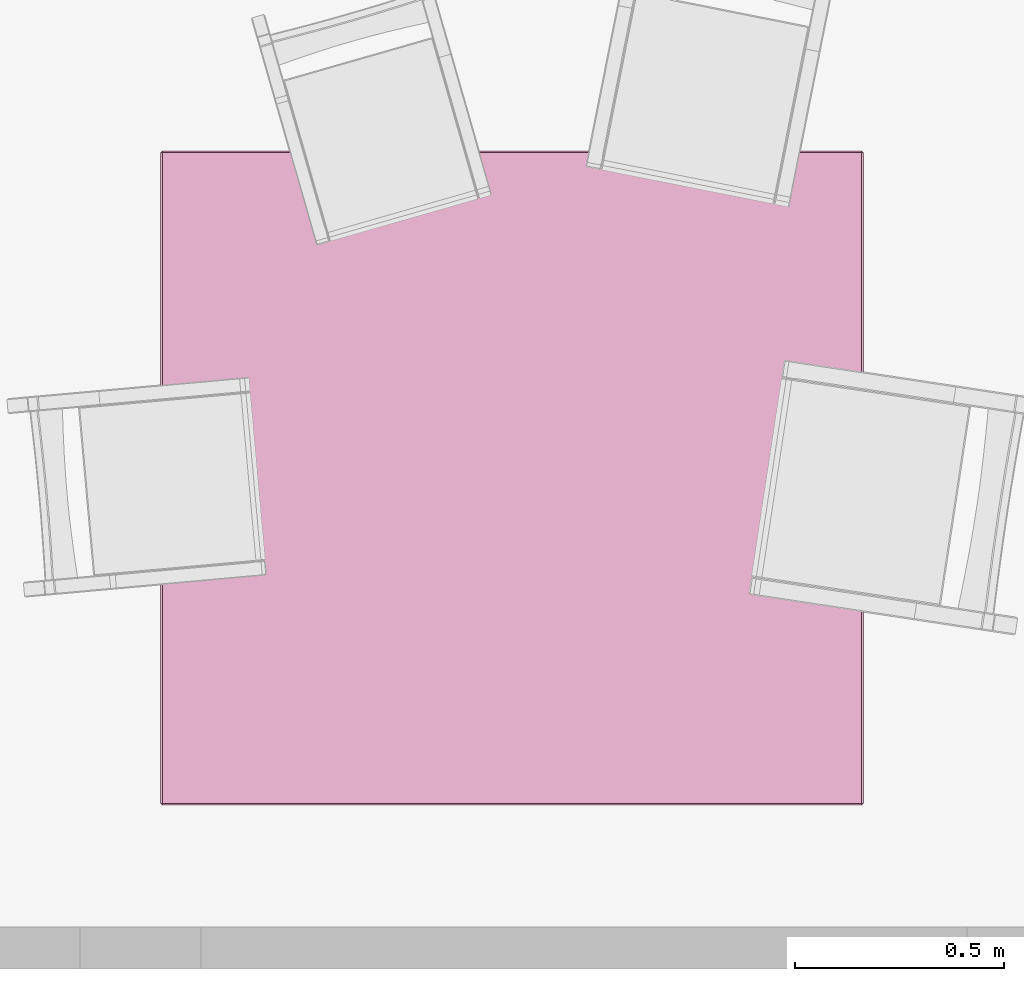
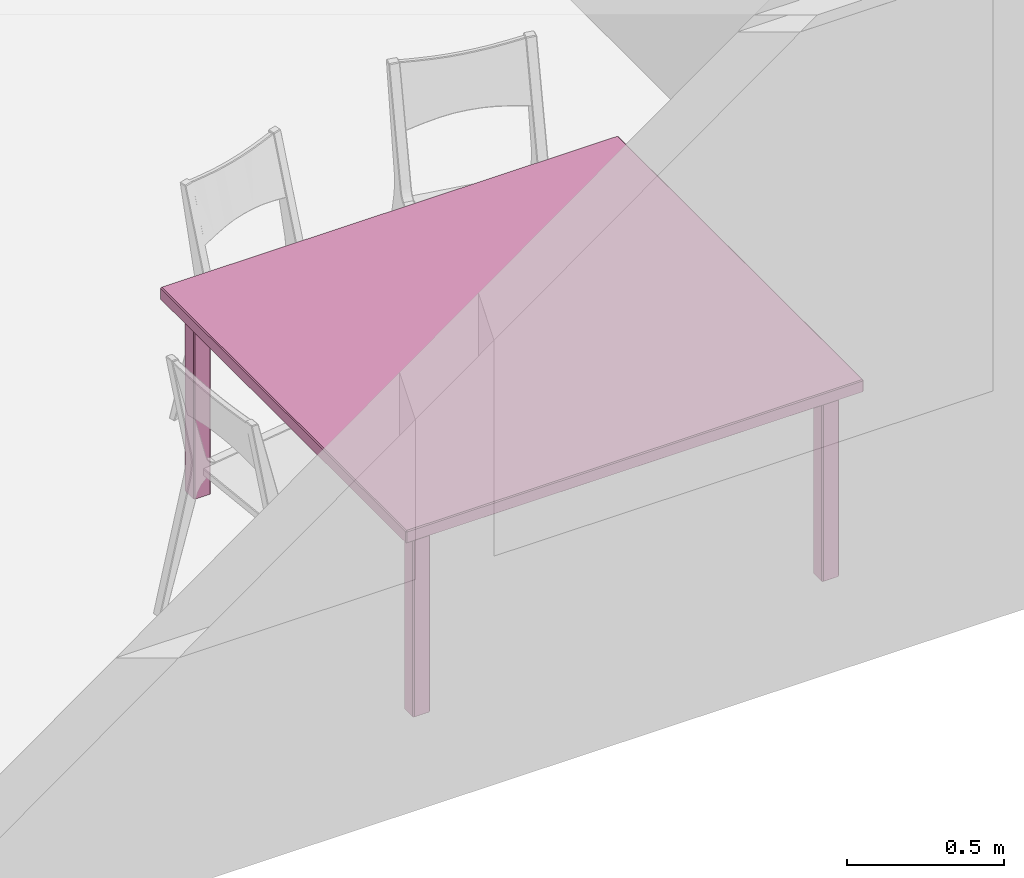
# One storey, part 19 of 26: 1 furniture element.
"""IFC4 building model written with IfcOpenShell, lengths in metres."""

from ifc_helpers import new_model, si_unit, direction, frame, origin_with_axes, place, context, project, spatial, polygons, type_object, element, save


model = new_model("IFC4")

# Units and contexts
model_context = context("Model", 3, precision=1e-05, world=origin_with_axes(), true_north=direction((0.996, -0.093, 0.0)))
ifc_project = project(units=[si_unit("LENGTHUNIT", "METRE"), si_unit("AREAUNIT", "SQUARE_METRE")], contexts=[model_context])

# Site, building, storey, space
site_placement = place(None, origin_with_axes())
site = spatial("IfcSite", under=ifc_project, at=site_placement, Name="Site", CompositionType="ELEMENT")
building_placement = place(site_placement, origin_with_axes())
building = spatial("IfcBuilding", under=site, at=building_placement, Name="Building", CompositionType="ELEMENT")
storey_placement = place(building_placement, frame((0.0, 0.0, 0.0500001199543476), z_axis=(0.0, 0.0, 1.0), x_axis=(1.0, 0.0, 0.0)))
storey = spatial("IfcBuildingStorey", under=building, at=storey_placement, Name="Story 0", CompositionType="ELEMENT", Elevation=0.0500000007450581)
space_placement = place(storey_placement, frame((24.3933241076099, 0.811289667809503, 0.0), z_axis=(0.0, 0.0, 1.0), x_axis=(1.0, 0.0, 0.0)))
space = spatial("IfcSpace", under=storey, at=space_placement, Name="008", CompositionType="ELEMENT")

# Furniture
furniture_type = type_object("IfcFurnitureType", Name="fcb3899c-d8d7-4efd-a397-636705d5c146", AssemblyPlace="NOTDEFINED", PredefinedType="USERDEFINED")
furniture_placement = place(space_placement, frame((3.68496301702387, -4.40319359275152, 0.389867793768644), z_axis=(0.0, 0.0, 0.99999994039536), x_axis=(0.0, 0.99999994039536, 0.0)))
element("IfcFurniture", 1, at=furniture_placement, inside=space, type_object=furniture_type, Name="Table", ObjectType="Table", PredefinedType="USERDEFINED", context=model_context, shape_type="Tessellation", body=[
    polygons([(0.7789, 0.8409, 0.3446), (-0.7789, 0.8409, 0.3446), (0.7789, 0.8409, 0.3864), (-0.7789, 0.8409, 0.3864), (0.7789, 0.8409, 0.3864), (-0.7789, 0.8409, 0.3446), (0.6677, -0.7786, 0.3534), (0.6677, -0.7235, 0.3534), (0.6677, -0.7786, -0.3864), (0.6677, -0.7235, -0.3864), (0.6677, -0.7786, -0.3864), (0.6677, -0.7235, 0.3534), (0.723, -0.7828, 0.3534), (0.6716, -0.7828, 0.3534), (0.723, -0.7828, -0.3864), (0.6716, -0.7828, -0.3864), (0.723, -0.7828, -0.3864), (0.6716, -0.7828, 0.3534), (0.7269, -0.7235, 0.3534), (0.7269, -0.7786, 0.3534), (0.7269, -0.7235, -0.3864), (0.7269, -0.7786, -0.3864), (0.7269, -0.7235, -0.3864), (0.7269, -0.7786, 0.3534), (0.6716, -0.7193, 0.3534), (0.723, -0.7193, 0.3534), (0.6716, -0.7193, -0.3864), (0.723, -0.7193, -0.3864), (0.6716, -0.7193, -0.3864), (0.723, -0.7193, 0.3534), (0.6677, 0.7786, 0.3534), (0.6677, 0.7786, -0.3864), (0.6677, 0.7235, 0.3534), (0.6677, 0.7235, -0.3864), (0.6677, 0.7235, 0.3534), (0.6677, 0.7786, -0.3864), (0.723, 0.7828, 0.3534), (0.723, 0.7828, -0.3864), (0.6716, 0.7828, 0.3534), (0.6716, 0.7828, -0.3864), (0.6716, 0.7828, 0.3534), (0.723, 0.7828, -0.3864), (0.7269, 0.7235, 0.3534), (0.7269, 0.7235, -0.3864), (0.7269, 0.7786, 0.3534), (0.7269, 0.7786, -0.3864), (0.7269, 0.7786, 0.3534), (0.7269, 0.7235, -0.3864), (0.6716, 0.7193, 0.3534), (0.6716, 0.7193, -0.3864), (0.723, 0.7193, 0.3534), (0.723, 0.7193, -0.3864), (0.723, 0.7193, 0.3534), (0.6716, 0.7193, -0.3864), (0.7829, 0.8367, 0.3446), (0.7829, 0.8367, 0.3864), (0.7829, -0.8367, 0.3446), (0.7829, -0.8367, 0.3864), (0.7829, -0.8367, 0.3446), (0.7829, 0.8367, 0.3864), (-0.7828, 0.8367, 0.3864), (-0.7828, 0.8367, 0.3446), (-0.7828, -0.8367, 0.3864), (-0.7828, -0.8367, 0.3446), (-0.7828, -0.8367, 0.3864), (-0.7828, 0.8367, 0.3446), (-0.6677, -0.7786, 0.3534), (-0.6677, -0.7786, -0.3864), (-0.6677, -0.7235, 0.3534), (-0.6677, -0.7235, -0.3864), (-0.6677, -0.7235, 0.3534), (-0.6677, -0.7786, -0.3864), (-0.723, -0.7828, 0.3534), (-0.723, -0.7828, -0.3864), (-0.6716, -0.7828, 0.3534), (-0.6716, -0.7828, -0.3864), (-0.6716, -0.7828, 0.3534), (-0.723, -0.7828, -0.3864), (-0.7269, -0.7235, 0.3534), (-0.7269, -0.7235, -0.3864), (-0.7269, -0.7786, 0.3534), (-0.7269, -0.7786, -0.3864), (-0.7269, -0.7786, 0.3534), (-0.7269, -0.7235, -0.3864), (-0.6716, -0.7193, 0.3534), (-0.6716, -0.7193, -0.3864), (-0.723, -0.7193, 0.3534), (-0.723, -0.7193, -0.3864), (-0.723, -0.7193, 0.3534), (-0.6716, -0.7193, -0.3864), (-0.6677, 0.7786, 0.3534), (-0.6677, 0.7235, 0.3534), (-0.6677, 0.7786, -0.3864), (-0.6677, 0.7235, -0.3864), (-0.6677, 0.7786, -0.3864), (-0.6677, 0.7235, 0.3534), (-0.723, 0.7828, 0.3534), (-0.6716, 0.7828, 0.3534), (-0.723, 0.7828, -0.3864), (-0.6716, 0.7828, -0.3864), (-0.723, 0.7828, -0.3864), (-0.6716, 0.7828, 0.3534), (-0.7269, 0.7235, 0.3534), (-0.7269, 0.7786, 0.3534), (-0.7269, 0.7235, -0.3864), (-0.7269, 0.7786, -0.3864), (-0.7269, 0.7235, -0.3864), (-0.7269, 0.7786, 0.3534), (-0.6716, 0.7193, 0.3534), (-0.723, 0.7193, 0.3534), (-0.6716, 0.7193, -0.3864), (-0.723, 0.7193, -0.3864), (-0.6716, 0.7193, -0.3864), (-0.723, 0.7193, 0.3534), (-0.7789, 0.8367, 0.3899), (-0.7789, -0.8367, 0.3899), (0.7789, 0.8367, 0.3899), (0.7789, -0.8367, 0.3899), (0.7789, 0.8367, 0.3899), (-0.7789, -0.8367, 0.3899), (0.7789, -0.8409, 0.3446), (0.7789, -0.8409, 0.3864), (-0.7789, -0.8409, 0.3446), (-0.7789, -0.8409, 0.3864), (-0.7789, -0.8409, 0.3446), (0.7789, -0.8409, 0.3864), (0.7789, -0.8367, 0.3412), (-0.7789, -0.8367, 0.3412), (0.7789, 0.8367, 0.3412), (-0.7789, 0.8367, 0.3412), (0.7789, 0.8367, 0.3412), (-0.7789, -0.8367, 0.3412), (0.723, -0.7786, 0.3568), (0.723, -0.7235, 0.3568), (0.6716, -0.7786, 0.3568), (0.6716, -0.7235, 0.3568), (0.6716, -0.7786, 0.3568), (0.723, -0.7235, 0.3568), (0.723, -0.7235, -0.3899), (0.723, -0.7786, -0.3899), (0.6716, -0.7235, -0.3899), (0.6716, -0.7786, -0.3899), (0.6716, -0.7235, -0.3899), (0.723, -0.7786, -0.3899), (0.723, 0.7786, -0.3899), (0.723, 0.7235, -0.3899), (0.6716, 0.7786, -0.3899), (0.6716, 0.7235, -0.3899), (0.6716, 0.7786, -0.3899), (0.723, 0.7235, -0.3899), (0.723, 0.7235, 0.3568), (0.723, 0.7786, 0.3568), (0.6716, 0.7235, 0.3568), (0.6716, 0.7786, 0.3568), (0.6716, 0.7235, 0.3568), (0.723, 0.7786, 0.3568), (-0.723, -0.7786, -0.3899), (-0.723, -0.7235, -0.3899), (-0.6716, -0.7786, -0.3899), (-0.6716, -0.7235, -0.3899), (-0.6716, -0.7786, -0.3899), (-0.723, -0.7235, -0.3899), (-0.723, -0.7235, 0.3568), (-0.723, -0.7786, 0.3568), (-0.6716, -0.7235, 0.3568), (-0.6716, -0.7786, 0.3568), (-0.6716, -0.7235, 0.3568), (-0.723, -0.7786, 0.3568), (-0.723, 0.7786, 0.3568), (-0.723, 0.7235, 0.3568), (-0.6716, 0.7786, 0.3568), (-0.6716, 0.7235, 0.3568), (-0.6716, 0.7786, 0.3568), (-0.723, 0.7235, 0.3568), (-0.723, 0.7235, -0.3899), (-0.723, 0.7786, -0.3899), (-0.6716, 0.7235, -0.3899), (-0.6716, 0.7786, -0.3899), (-0.6716, 0.7235, -0.3899), (-0.723, 0.7786, -0.3899), (-0.7789, 0.8367, 0.3899), (-0.7789, 0.8409, 0.3864), (-0.7828, 0.8367, 0.3864), (0.6716, -0.7235, -0.3899), (0.6677, -0.7235, -0.3864), (0.6716, -0.7193, -0.3864), (0.6716, -0.7786, -0.3899), (0.6716, -0.7828, -0.3864), (0.6677, -0.7786, -0.3864), (0.723, -0.7786, -0.3899), (0.7269, -0.7786, -0.3864), (0.723, -0.7828, -0.3864), (0.723, -0.7235, -0.3899), (0.723, -0.7193, -0.3864), (0.7269, -0.7235, -0.3864), (0.6716, -0.7235, 0.3568), (0.6716, -0.7193, 0.3534), (0.6677, -0.7235, 0.3534), (0.6716, 0.7193, -0.3864), (0.6677, 0.7235, -0.3864), (0.6716, 0.7235, -0.3899), (0.6716, 0.7786, 0.3568), (0.6716, 0.7828, 0.3534), (0.6677, 0.7786, 0.3534), (0.723, 0.7786, 0.3568), (0.7269, 0.7786, 0.3534), (0.723, 0.7828, 0.3534), (0.723, 0.7235, 0.3568), (0.723, 0.7193, 0.3534), (0.7269, 0.7235, 0.3534), (0.7789, -0.8409, 0.3864), (0.7829, -0.8367, 0.3864), (0.7789, -0.8367, 0.3899), (0.7789, 0.8367, 0.3899), (0.7829, 0.8367, 0.3864), (0.7789, 0.8409, 0.3864), (-0.7789, -0.8409, 0.3446), (-0.7828, -0.8367, 0.3446), (-0.7789, -0.8367, 0.3412), (-0.7789, 0.8367, 0.3412), (-0.7828, 0.8367, 0.3446), (-0.7789, 0.8409, 0.3446), (-0.6716, -0.7193, -0.3864), (-0.6677, -0.7235, -0.3864), (-0.6716, -0.7235, -0.3899), (-0.6716, -0.7786, 0.3568), (-0.6716, -0.7828, 0.3534), (-0.6677, -0.7786, 0.3534), (-0.723, -0.7786, 0.3568), (-0.7269, -0.7786, 0.3534), (-0.723, -0.7828, 0.3534), (-0.723, -0.7235, 0.3568), (-0.723, -0.7193, 0.3534), (-0.7269, -0.7235, 0.3534), (-0.6716, 0.7235, -0.3899), (-0.6677, 0.7235, -0.3864), (-0.6716, 0.7193, -0.3864), (-0.6716, 0.7786, -0.3899), (-0.6716, 0.7828, -0.3864), (-0.6677, 0.7786, -0.3864), (-0.723, 0.7786, -0.3899), (-0.7269, 0.7786, -0.3864), (-0.723, 0.7828, -0.3864), (-0.723, 0.7235, -0.3899), (-0.723, 0.7193, -0.3864), (-0.7269, 0.7235, -0.3864), (-0.6716, 0.7235, 0.3568), (-0.6716, 0.7193, 0.3534), (-0.6677, 0.7235, 0.3534), (-0.7789, -0.8409, 0.3864), (-0.7789, -0.8367, 0.3899), (-0.7828, -0.8367, 0.3864), (0.7789, -0.8409, 0.3446), (0.7789, -0.8367, 0.3412), (0.7829, -0.8367, 0.3446), (0.7829, 0.8367, 0.3446), (0.7789, 0.8367, 0.3412), (0.7789, 0.8409, 0.3446), (0.723, -0.7193, 0.3534), (0.723, -0.7235, 0.3568), (0.7269, -0.7235, 0.3534), (0.7269, -0.7786, 0.3534), (0.723, -0.7786, 0.3568), (0.723, -0.7828, 0.3534), (0.6716, -0.7828, 0.3534), (0.6716, -0.7786, 0.3568), (0.6677, -0.7786, 0.3534), (0.723, 0.7193, -0.3864), (0.723, 0.7235, -0.3899), (0.7269, 0.7235, -0.3864), (0.7269, 0.7786, -0.3864), (0.723, 0.7786, -0.3899), (0.723, 0.7828, -0.3864), (0.6716, 0.7828, -0.3864), (0.6716, 0.7786, -0.3899), (0.6677, 0.7786, -0.3864), (0.6716, 0.7193, 0.3534), (0.6716, 0.7235, 0.3568), (0.6677, 0.7235, 0.3534), (-0.723, -0.7193, -0.3864), (-0.723, -0.7235, -0.3899), (-0.7269, -0.7235, -0.3864), (-0.7269, -0.7786, -0.3864), (-0.723, -0.7786, -0.3899), (-0.723, -0.7828, -0.3864), (-0.6716, -0.7828, -0.3864), (-0.6716, -0.7786, -0.3899), (-0.6677, -0.7786, -0.3864), (-0.6716, -0.7193, 0.3534), (-0.6716, -0.7235, 0.3568), (-0.6677, -0.7235, 0.3534), (-0.723, 0.7193, 0.3534), (-0.723, 0.7235, 0.3568), (-0.7269, 0.7235, 0.3534), (-0.7269, 0.7786, 0.3534), (-0.723, 0.7786, 0.3568), (-0.723, 0.7828, 0.3534), (-0.6716, 0.7828, 0.3534), (-0.6716, 0.7786, 0.3568), (-0.6677, 0.7786, 0.3534), (-0.7789, 0.8409, 0.3864), (-0.7789, 0.8409, 0.3446), (-0.7828, 0.8367, 0.3864), (-0.7828, 0.8367, 0.3446), (-0.7828, 0.8367, 0.3864), (-0.7789, 0.8409, 0.3446), (-0.7789, 0.8409, 0.3446), (0.7789, 0.8409, 0.3446), (-0.7789, 0.8367, 0.3412), (0.7789, 0.8367, 0.3412), (-0.7789, 0.8367, 0.3412), (0.7789, 0.8409, 0.3446), (0.7789, 0.8409, 0.3446), (0.7789, 0.8409, 0.3864), (0.7829, 0.8367, 0.3446), (0.7829, 0.8367, 0.3864), (0.7829, 0.8367, 0.3446), (0.7789, 0.8409, 0.3864), (0.7789, 0.8409, 0.3864), (-0.7789, 0.8409, 0.3864), (0.7789, 0.8367, 0.3899), (-0.7789, 0.8367, 0.3899), (0.7789, 0.8367, 0.3899), (-0.7789, 0.8409, 0.3864), (0.6677, -0.7235, -0.3864), (0.6677, -0.7235, 0.3534), (0.6716, -0.7193, -0.3864), (0.6716, -0.7193, 0.3534), (0.6716, -0.7193, -0.3864), (0.6677, -0.7235, 0.3534), (0.6677, -0.7235, 0.3534), (0.6677, -0.7786, 0.3534), (0.6716, -0.7235, 0.3568), (0.6716, -0.7786, 0.3568), (0.6716, -0.7235, 0.3568), (0.6677, -0.7786, 0.3534), (0.6677, -0.7786, 0.3534), (0.6677, -0.7786, -0.3864), (0.6716, -0.7828, 0.3534), (0.6716, -0.7828, -0.3864), (0.6716, -0.7828, 0.3534), (0.6677, -0.7786, -0.3864), (0.6677, -0.7786, -0.3864), (0.6677, -0.7235, -0.3864), (0.6716, -0.7786, -0.3899), (0.6716, -0.7235, -0.3899), (0.6716, -0.7786, -0.3899), (0.6677, -0.7235, -0.3864), (0.6716, -0.7828, 0.3534), (0.723, -0.7828, 0.3534), (0.6716, -0.7786, 0.3568), (0.723, -0.7786, 0.3568), (0.6716, -0.7786, 0.3568), (0.723, -0.7828, 0.3534), (0.723, -0.7828, 0.3534), (0.723, -0.7828, -0.3864), (0.7269, -0.7786, 0.3534), (0.7269, -0.7786, -0.3864), (0.7269, -0.7786, 0.3534), (0.723, -0.7828, -0.3864), (0.723, -0.7828, -0.3864), (0.6716, -0.7828, -0.3864), (0.723, -0.7786, -0.3899), (0.6716, -0.7786, -0.3899), (0.723, -0.7786, -0.3899), (0.6716, -0.7828, -0.3864), (0.7269, -0.7786, 0.3534), (0.7269, -0.7235, 0.3534), (0.723, -0.7786, 0.3568), (0.723, -0.7235, 0.3568), (0.723, -0.7786, 0.3568), (0.7269, -0.7235, 0.3534), (0.7269, -0.7235, 0.3534), (0.7269, -0.7235, -0.3864), (0.723, -0.7193, 0.3534), (0.723, -0.7193, -0.3864), (0.723, -0.7193, 0.3534), (0.7269, -0.7235, -0.3864), (0.7269, -0.7235, -0.3864), (0.7269, -0.7786, -0.3864), (0.723, -0.7235, -0.3899), (0.723, -0.7786, -0.3899), (0.723, -0.7235, -0.3899), (0.7269, -0.7786, -0.3864), (0.723, -0.7193, 0.3534), (0.6716, -0.7193, 0.3534), (0.723, -0.7235, 0.3568), (0.6716, -0.7235, 0.3568), (0.723, -0.7235, 0.3568), (0.6716, -0.7193, 0.3534), (0.6716, -0.7193, -0.3864), (0.723, -0.7193, -0.3864), (0.6716, -0.7235, -0.3899), (0.723, -0.7235, -0.3899), (0.6716, -0.7235, -0.3899), (0.723, -0.7193, -0.3864), (0.6677, 0.7235, -0.3864), (0.6677, 0.7786, -0.3864), (0.6716, 0.7235, -0.3899), (0.6716, 0.7786, -0.3899), (0.6716, 0.7235, -0.3899), (0.6677, 0.7786, -0.3864), (0.6677, 0.7786, -0.3864), (0.6677, 0.7786, 0.3534), (0.6716, 0.7828, -0.3864), (0.6716, 0.7828, 0.3534), (0.6716, 0.7828, -0.3864), (0.6677, 0.7786, 0.3534), (0.6677, 0.7786, 0.3534), (0.6677, 0.7235, 0.3534), (0.6716, 0.7786, 0.3568), (0.6716, 0.7235, 0.3568), (0.6716, 0.7786, 0.3568), (0.6677, 0.7235, 0.3534), (0.6677, 0.7235, 0.3534), (0.6677, 0.7235, -0.3864), (0.6716, 0.7193, 0.3534), (0.6716, 0.7193, -0.3864), (0.6716, 0.7193, 0.3534), (0.6677, 0.7235, -0.3864), (0.6716, 0.7828, -0.3864), (0.723, 0.7828, -0.3864), (0.6716, 0.7786, -0.3899), (0.723, 0.7786, -0.3899), (0.6716, 0.7786, -0.3899), (0.723, 0.7828, -0.3864), (0.723, 0.7828, -0.3864), (0.723, 0.7828, 0.3534), (0.7269, 0.7786, -0.3864), (0.7269, 0.7786, 0.3534), (0.7269, 0.7786, -0.3864), (0.723, 0.7828, 0.3534), (0.723, 0.7828, 0.3534), (0.6716, 0.7828, 0.3534), (0.723, 0.7786, 0.3568), (0.6716, 0.7786, 0.3568), (0.723, 0.7786, 0.3568), (0.6716, 0.7828, 0.3534), (0.7269, 0.7786, -0.3864), (0.7269, 0.7235, -0.3864), (0.723, 0.7786, -0.3899), (0.723, 0.7235, -0.3899), (0.723, 0.7786, -0.3899), (0.7269, 0.7235, -0.3864), (0.7269, 0.7235, -0.3864), (0.7269, 0.7235, 0.3534), (0.723, 0.7193, -0.3864), (0.723, 0.7193, 0.3534), (0.723, 0.7193, -0.3864), (0.7269, 0.7235, 0.3534), (0.7269, 0.7235, 0.3534), (0.7269, 0.7786, 0.3534), (0.723, 0.7235, 0.3568), (0.723, 0.7786, 0.3568), (0.723, 0.7235, 0.3568), (0.7269, 0.7786, 0.3534), (0.723, 0.7193, -0.3864), (0.6716, 0.7193, -0.3864), (0.723, 0.7235, -0.3899), (0.6716, 0.7235, -0.3899), (0.723, 0.7235, -0.3899), (0.6716, 0.7193, -0.3864), (0.6716, 0.7193, 0.3534), (0.723, 0.7193, 0.3534), (0.6716, 0.7235, 0.3568), (0.723, 0.7235, 0.3568), (0.6716, 0.7235, 0.3568), (0.723, 0.7193, 0.3534), (0.7829, -0.8367, 0.3864), (0.7829, 0.8367, 0.3864), (0.7789, -0.8367, 0.3899), (0.7789, 0.8367, 0.3899), (0.7789, -0.8367, 0.3899), (0.7829, 0.8367, 0.3864), (0.7829, 0.8367, 0.3446), (0.7829, -0.8367, 0.3446), (0.7789, 0.8367, 0.3412), (0.7789, -0.8367, 0.3412), (0.7789, 0.8367, 0.3412), (0.7829, -0.8367, 0.3446), (0.7829, -0.8367, 0.3446), (0.7829, -0.8367, 0.3864), (0.7789, -0.8409, 0.3446), (0.7789, -0.8409, 0.3864), (0.7789, -0.8409, 0.3446), (0.7829, -0.8367, 0.3864), (-0.7828, -0.8367, 0.3446), (-0.7828, 0.8367, 0.3446), (-0.7789, -0.8367, 0.3412), (-0.7789, 0.8367, 0.3412), (-0.7789, -0.8367, 0.3412), (-0.7828, 0.8367, 0.3446), (-0.7828, 0.8367, 0.3864), (-0.7828, -0.8367, 0.3864), (-0.7789, 0.8367, 0.3899), (-0.7789, -0.8367, 0.3899), (-0.7789, 0.8367, 0.3899), (-0.7828, -0.8367, 0.3864), (-0.7828, -0.8367, 0.3864), (-0.7828, -0.8367, 0.3446), (-0.7789, -0.8409, 0.3864), (-0.7789, -0.8409, 0.3446), (-0.7789, -0.8409, 0.3864), (-0.7828, -0.8367, 0.3446), (-0.6677, -0.7235, -0.3864), (-0.6677, -0.7786, -0.3864), (-0.6716, -0.7235, -0.3899), (-0.6716, -0.7786, -0.3899), (-0.6716, -0.7235, -0.3899), (-0.6677, -0.7786, -0.3864), (-0.6677, -0.7786, -0.3864), (-0.6677, -0.7786, 0.3534), (-0.6716, -0.7828, -0.3864), (-0.6716, -0.7828, 0.3534), (-0.6716, -0.7828, -0.3864), (-0.6677, -0.7786, 0.3534), (-0.6677, -0.7786, 0.3534), (-0.6677, -0.7235, 0.3534), (-0.6716, -0.7786, 0.3568), (-0.6716, -0.7235, 0.3568), (-0.6716, -0.7786, 0.3568), (-0.6677, -0.7235, 0.3534), (-0.6677, -0.7235, 0.3534), (-0.6677, -0.7235, -0.3864), (-0.6716, -0.7193, 0.3534), (-0.6716, -0.7193, -0.3864), (-0.6716, -0.7193, 0.3534), (-0.6677, -0.7235, -0.3864), (-0.6716, -0.7828, -0.3864), (-0.723, -0.7828, -0.3864), (-0.6716, -0.7786, -0.3899), (-0.723, -0.7786, -0.3899), (-0.6716, -0.7786, -0.3899), (-0.723, -0.7828, -0.3864), (-0.723, -0.7828, -0.3864), (-0.723, -0.7828, 0.3534), (-0.7269, -0.7786, -0.3864), (-0.7269, -0.7786, 0.3534), (-0.7269, -0.7786, -0.3864), (-0.723, -0.7828, 0.3534), (-0.723, -0.7828, 0.3534), (-0.6716, -0.7828, 0.3534), (-0.723, -0.7786, 0.3568), (-0.6716, -0.7786, 0.3568), (-0.723, -0.7786, 0.3568), (-0.6716, -0.7828, 0.3534), (-0.7269, -0.7786, -0.3864), (-0.7269, -0.7235, -0.3864), (-0.723, -0.7786, -0.3899), (-0.723, -0.7235, -0.3899), (-0.723, -0.7786, -0.3899), (-0.7269, -0.7235, -0.3864), (-0.7269, -0.7235, -0.3864), (-0.7269, -0.7235, 0.3534), (-0.723, -0.7193, -0.3864), (-0.723, -0.7193, 0.3534), (-0.723, -0.7193, -0.3864), (-0.7269, -0.7235, 0.3534), (-0.7269, -0.7235, 0.3534), (-0.7269, -0.7786, 0.3534), (-0.723, -0.7235, 0.3568), (-0.723, -0.7786, 0.3568), (-0.723, -0.7235, 0.3568), (-0.7269, -0.7786, 0.3534), (-0.723, -0.7193, -0.3864), (-0.6716, -0.7193, -0.3864), (-0.723, -0.7235, -0.3899), (-0.6716, -0.7235, -0.3899), (-0.723, -0.7235, -0.3899), (-0.6716, -0.7193, -0.3864), (-0.6716, -0.7193, 0.3534), (-0.723, -0.7193, 0.3534), (-0.6716, -0.7235, 0.3568), (-0.723, -0.7235, 0.3568), (-0.6716, -0.7235, 0.3568), (-0.723, -0.7193, 0.3534), (-0.6677, 0.7235, -0.3864), (-0.6677, 0.7235, 0.3534), (-0.6716, 0.7193, -0.3864), (-0.6716, 0.7193, 0.3534), (-0.6716, 0.7193, -0.3864), (-0.6677, 0.7235, 0.3534), (-0.6677, 0.7235, 0.3534), (-0.6677, 0.7786, 0.3534), (-0.6716, 0.7235, 0.3568), (-0.6716, 0.7786, 0.3568), (-0.6716, 0.7235, 0.3568), (-0.6677, 0.7786, 0.3534), (-0.6677, 0.7786, 0.3534), (-0.6677, 0.7786, -0.3864), (-0.6716, 0.7828, 0.3534), (-0.6716, 0.7828, -0.3864), (-0.6716, 0.7828, 0.3534), (-0.6677, 0.7786, -0.3864), (-0.6677, 0.7786, -0.3864), (-0.6677, 0.7235, -0.3864), (-0.6716, 0.7786, -0.3899), (-0.6716, 0.7235, -0.3899), (-0.6716, 0.7786, -0.3899), (-0.6677, 0.7235, -0.3864), (-0.6716, 0.7828, 0.3534), (-0.723, 0.7828, 0.3534), (-0.6716, 0.7786, 0.3568), (-0.723, 0.7786, 0.3568), (-0.6716, 0.7786, 0.3568), (-0.723, 0.7828, 0.3534), (-0.723, 0.7828, 0.3534), (-0.723, 0.7828, -0.3864), (-0.7269, 0.7786, 0.3534), (-0.7269, 0.7786, -0.3864), (-0.7269, 0.7786, 0.3534), (-0.723, 0.7828, -0.3864), (-0.723, 0.7828, -0.3864), (-0.6716, 0.7828, -0.3864), (-0.723, 0.7786, -0.3899), (-0.6716, 0.7786, -0.3899), (-0.723, 0.7786, -0.3899), (-0.6716, 0.7828, -0.3864), (-0.7269, 0.7786, 0.3534), (-0.7269, 0.7235, 0.3534), (-0.723, 0.7786, 0.3568), (-0.723, 0.7235, 0.3568), (-0.723, 0.7786, 0.3568), (-0.7269, 0.7235, 0.3534), (-0.7269, 0.7235, 0.3534), (-0.7269, 0.7235, -0.3864), (-0.723, 0.7193, 0.3534), (-0.723, 0.7193, -0.3864), (-0.723, 0.7193, 0.3534), (-0.7269, 0.7235, -0.3864), (-0.7269, 0.7235, -0.3864), (-0.7269, 0.7786, -0.3864), (-0.723, 0.7235, -0.3899), (-0.723, 0.7786, -0.3899), (-0.723, 0.7235, -0.3899), (-0.7269, 0.7786, -0.3864), (-0.723, 0.7193, 0.3534), (-0.6716, 0.7193, 0.3534), (-0.723, 0.7235, 0.3568), (-0.6716, 0.7235, 0.3568), (-0.723, 0.7235, 0.3568), (-0.6716, 0.7193, 0.3534), (-0.6716, 0.7193, -0.3864), (-0.723, 0.7193, -0.3864), (-0.6716, 0.7235, -0.3899), (-0.723, 0.7235, -0.3899), (-0.6716, 0.7235, -0.3899), (-0.723, 0.7193, -0.3864), (0.7789, -0.8367, 0.3899), (-0.7789, -0.8367, 0.3899), (0.7789, -0.8409, 0.3864), (-0.7789, -0.8409, 0.3864), (0.7789, -0.8409, 0.3864), (-0.7789, -0.8367, 0.3899), (0.7789, -0.8409, 0.3446), (-0.7789, -0.8409, 0.3446), (0.7789, -0.8367, 0.3412), (-0.7789, -0.8367, 0.3412), (0.7789, -0.8367, 0.3412), (-0.7789, -0.8409, 0.3446)], [[[1, 2, 3]], [[4, 5, 6]], [[7, 8, 9]], [[10, 11, 12]], [[13, 14, 15]], [[16, 17, 18]], [[19, 20, 21]], [[22, 23, 24]], [[25, 26, 27]], [[28, 29, 30]], [[31, 32, 33]], [[34, 35, 36]], [[37, 38, 39]], [[40, 41, 42]], [[43, 44, 45]], [[46, 47, 48]], [[49, 50, 51]], [[52, 53, 54]], [[55, 56, 57]], [[58, 59, 60]], [[61, 62, 63]], [[64, 65, 66]], [[67, 68, 69]], [[70, 71, 72]], [[73, 74, 75]], [[76, 77, 78]], [[79, 80, 81]], [[82, 83, 84]], [[85, 86, 87]], [[88, 89, 90]], [[91, 92, 93]], [[94, 95, 96]], [[97, 98, 99]], [[100, 101, 102]], [[103, 104, 105]], [[106, 107, 108]], [[109, 110, 111]], [[112, 113, 114]], [[115, 116, 117]], [[118, 119, 120]], [[121, 122, 123]], [[124, 125, 126]], [[127, 128, 129]], [[130, 131, 132]], [[133, 134, 135]], [[136, 137, 138]], [[139, 140, 141]], [[142, 143, 144]], [[145, 146, 147]], [[148, 149, 150]], [[151, 152, 153]], [[154, 155, 156]], [[157, 158, 159]], [[160, 161, 162]], [[163, 164, 165]], [[166, 167, 168]], [[169, 170, 171]], [[172, 173, 174]], [[175, 176, 177]], [[178, 179, 180]], [[181, 182, 183]], [[184, 185, 186]], [[187, 188, 189]], [[190, 191, 192]], [[193, 194, 195]], [[196, 197, 198]], [[199, 200, 201]], [[202, 203, 204]], [[205, 206, 207]], [[208, 209, 210]], [[211, 212, 213]], [[214, 215, 216]], [[217, 218, 219]], [[220, 221, 222]], [[223, 224, 225]], [[226, 227, 228]], [[229, 230, 231]], [[232, 233, 234]], [[235, 236, 237]], [[238, 239, 240]], [[241, 242, 243]], [[244, 245, 246]], [[247, 248, 249]], [[250, 251, 252]], [[253, 254, 255]], [[256, 257, 258]], [[259, 260, 261]], [[262, 263, 264]], [[265, 266, 267]], [[268, 269, 270]], [[271, 272, 273]], [[274, 275, 276]], [[277, 278, 279]], [[280, 281, 282]], [[283, 284, 285]], [[286, 287, 288]], [[289, 290, 291]], [[292, 293, 294]], [[295, 296, 297]], [[298, 299, 300]], [[301, 302, 303]], [[304, 305, 306]], [[307, 308, 309]], [[310, 311, 312]], [[313, 314, 315]], [[316, 317, 318]], [[319, 320, 321]], [[322, 323, 324]], [[325, 326, 327]], [[328, 329, 330]], [[331, 332, 333]], [[334, 335, 336]], [[337, 338, 339]], [[340, 341, 342]], [[343, 344, 345]], [[346, 347, 348]], [[349, 350, 351]], [[352, 353, 354]], [[355, 356, 357]], [[358, 359, 360]], [[361, 362, 363]], [[364, 365, 366]], [[367, 368, 369]], [[370, 371, 372]], [[373, 374, 375]], [[376, 377, 378]], [[379, 380, 381]], [[382, 383, 384]], [[385, 386, 387]], [[388, 389, 390]], [[391, 392, 393]], [[394, 395, 396]], [[397, 398, 399]], [[400, 401, 402]], [[403, 404, 405]], [[406, 407, 408]], [[409, 410, 411]], [[412, 413, 414]], [[415, 416, 417]], [[418, 419, 420]], [[421, 422, 423]], [[424, 425, 426]], [[427, 428, 429]], [[430, 431, 432]], [[433, 434, 435]], [[436, 437, 438]], [[439, 440, 441]], [[442, 443, 444]], [[445, 446, 447]], [[448, 449, 450]], [[451, 452, 453]], [[454, 455, 456]], [[457, 458, 459]], [[460, 461, 462]], [[463, 464, 465]], [[466, 467, 468]], [[469, 470, 471]], [[472, 473, 474]], [[475, 476, 477]], [[478, 479, 480]], [[481, 482, 483]], [[484, 485, 486]], [[487, 488, 489]], [[490, 491, 492]], [[493, 494, 495]], [[496, 497, 498]], [[499, 500, 501]], [[502, 503, 504]], [[505, 506, 507]], [[508, 509, 510]], [[511, 512, 513]], [[514, 515, 516]], [[517, 518, 519]], [[520, 521, 522]], [[523, 524, 525]], [[526, 527, 528]], [[529, 530, 531]], [[532, 533, 534]], [[535, 536, 537]], [[538, 539, 540]], [[541, 542, 543]], [[544, 545, 546]], [[547, 548, 549]], [[550, 551, 552]], [[553, 554, 555]], [[556, 557, 558]], [[559, 560, 561]], [[562, 563, 564]], [[565, 566, 567]], [[568, 569, 570]], [[571, 572, 573]], [[574, 575, 576]], [[577, 578, 579]], [[580, 581, 582]], [[583, 584, 585]], [[586, 587, 588]], [[589, 590, 591]], [[592, 593, 594]], [[595, 596, 597]], [[598, 599, 600]], [[601, 602, 603]], [[604, 605, 606]], [[607, 608, 609]], [[610, 611, 612]], [[613, 614, 615]], [[616, 617, 618]], [[619, 620, 621]], [[622, 623, 624]], [[625, 626, 627]], [[628, 629, 630]], [[631, 632, 633]], [[634, 635, 636]], [[637, 638, 639]], [[640, 641, 642]], [[643, 644, 645]], [[646, 647, 648]], [[649, 650, 651]], [[652, 653, 654]], [[655, 656, 657]], [[658, 659, 660]]]),
])

save(model, "model.ifc")
